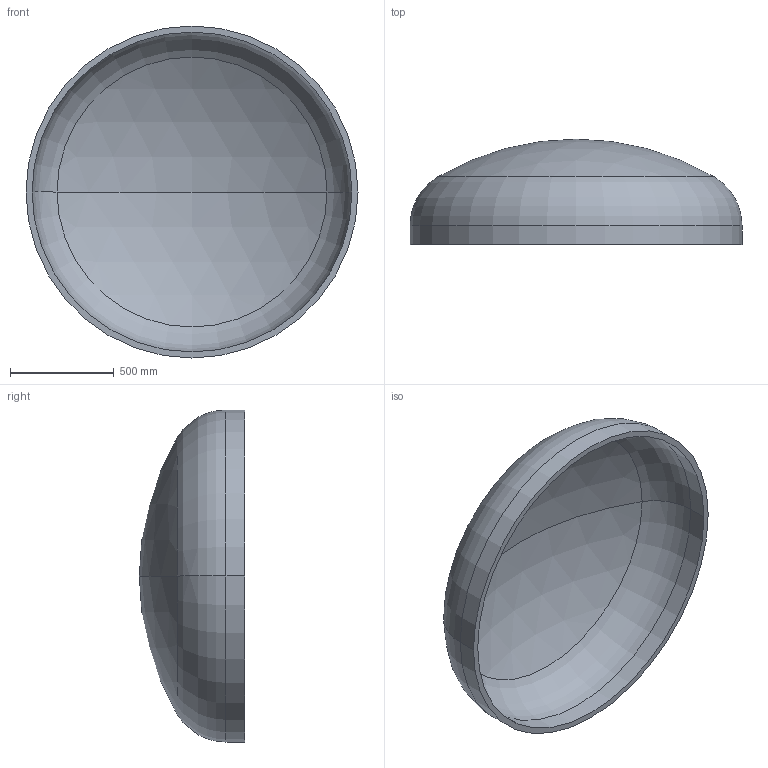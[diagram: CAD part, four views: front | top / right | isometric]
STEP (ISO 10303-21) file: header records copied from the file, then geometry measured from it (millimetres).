
FILE_DESCRIPTION (( 'STEP AP203' ), '1' );
FILE_NAME ('DIN 28013 Korbbogenform_-_Boden DIN 28013 - 1600 x 90 - I - s=29.step', '2016-07-01T11:11:29', ( '' ), ( '' ), 'SwSTEP 2.0', 'SolidWorks 2013', '' );
FILE_SCHEMA (( 'CONFIG_CONTROL_DESIGN' ));
Length unit declared in the file: millimetre
Products named in the file (1): DIN 28013 Korbbogenform_-_Boden DIN 28013 - 1600 x 90 - I - s=29
Bounding box: 1600 x 507.63 x 1600 mm (x, y, z)
Volume: 91641899.2 mm3; surface area: 6465018.1 mm2
Topology: 1 solids, 1 shells, 13 faces, 24 edges, 14 vertices
Faces by surface type: torus 4, cylinder 4, sphere 4, plane 1
Entity records: 407 total; most frequent: DIRECTION 72, CARTESIAN_POINT 52, ORIENTED_EDGE 48, AXIS2_PLACEMENT_3D 34, EDGE_CURVE 24, CIRCLE 20, VERTEX_POINT 14, EDGE_LOOP 14
